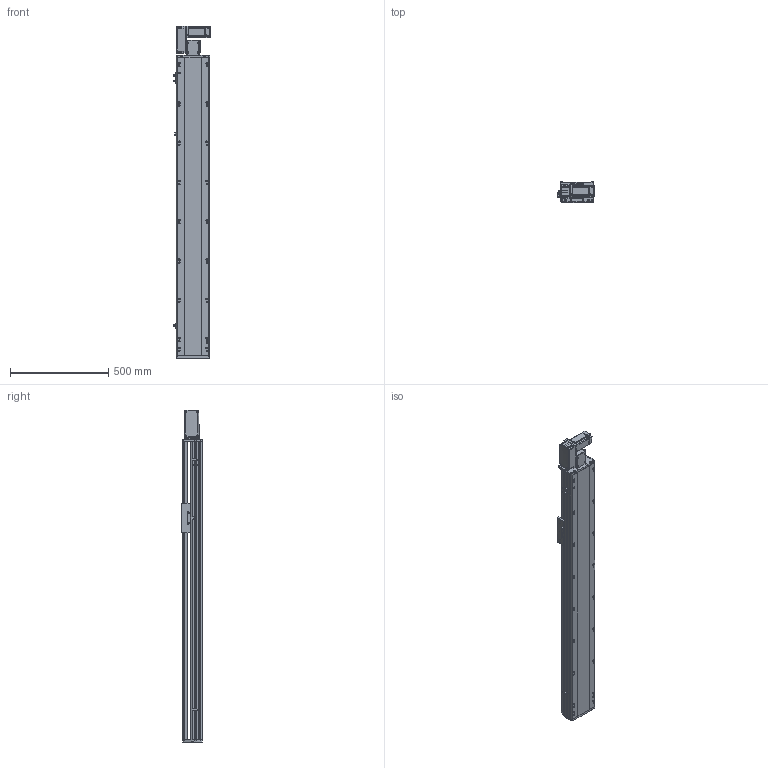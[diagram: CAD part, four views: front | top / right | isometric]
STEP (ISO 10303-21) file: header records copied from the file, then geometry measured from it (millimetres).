
FILE_DESCRIPTION (( 'STEP AP214' ), '1' );
FILE_NAME ('RTB17S-XX-1250-L-M40-C4.STEP', '2025-12-11T05:38:45', ( '' ), ( '' ), 'SwSTEP 2.0', 'SolidWorks 2018', '' );
FILE_SCHEMA (( 'AUTOMOTIVE_DESIGN' ));
Length unit declared in the file: millimetre
Products named in the file (14): 400W伺服电机^RTB17S-XX-XX-L-M40-C4（方程式）; RTB17S-L-001侧面板^RTB17S-XX-XX-L-M40-C4（方程式）; OMRON EE-SX672 传感器^RTB17S-XX-XX-L-M40-C4（方程式）; RTB17S-XX-1250-L-M40-C4; RTB14-L-018P^RTB17S-L-皮带座装配-400W_RTB17S-XX-XX-L-M40-C4（方程式）; RTB14-L-005P--轴承塑胶压盖^RTB17S-L-皮带座装配-400W_RTB17S-XX-XX-L-M40-C4（方程式）; RTB17S-L-皮带座装配-400W^RTB17S-XX-XX-L-M40-C4（方程式）; RTB17-R-011底座^RTB17S-XX-XX-L-M40-C4（方程式）; RTB14-L-008-M20--电机板^RTB17S-L-皮带座装配-400W_RTB17S-XX-XX-L-M40-C4（方程式）; RTB14-L-017P^RTB17S-L-皮带座装配-400W_RTB17S-XX-XX-L-M40-C4（方程式）; RMP17S-L-014-T20--皮带座^RTB17S-L-皮带座装配-400W_RTB17S-XX-XX-L-M40-C4（方程式）; RTB17S-L-007上盖^RTB17S-XX-XX-L-M40-C4（方程式）; RTB17S-L-004丝杆螺母连接座^RTB17S-XX-XX-L-M40-C4（方程式）; RTH13-BL-012感应片外置^RTB17S-XX-XX-L-M40-C4（方程式）
Assembly tree (16 placements, depth 3):
  RTB17S-XX-1250-L-M40-C4
    RTB17-R-011底座^RTB17S-XX-XX-L-M40-C4（方程式）
    RTB17S-L-007上盖^RTB17S-XX-XX-L-M40-C4（方程式）
    OMRON EE-SX672 传感器^RTB17S-XX-XX-L-M40-C4（方程式）  x3
    RTB17S-L-001侧面板^RTB17S-XX-XX-L-M40-C4（方程式）
    400W伺服电机^RTB17S-XX-XX-L-M40-C4（方程式）
    RTB17S-L-004丝杆螺母连接座^RTB17S-XX-XX-L-M40-C4（方程式）
    RTH13-BL-012感应片外置^RTB17S-XX-XX-L-M40-C4（方程式）
    RTB17S-L-皮带座装配-400W^RTB17S-XX-XX-L-M40-C4（方程式）
      RMP17S-L-014-T20--皮带座^RTB17S-L-皮带座装配-400W_RTB17S-XX-XX-L-M40-C4（方程式）
      RTB14-L-005P--轴承塑胶压盖^RTB17S-L-皮带座装配-400W_RTB17S-XX-XX-L-M40-C4（方程式）
      RTB14-L-008-M20--电机板^RTB17S-L-皮带座装配-400W_RTB17S-XX-XX-L-M40-C4（方程式）
      RTB14-L-017P^RTB17S-L-皮带座装配-400W_RTB17S-XX-XX-L-M40-C4（方程式）  x2
      RTB14-L-018P^RTB17S-L-皮带座装配-400W_RTB17S-XX-XX-L-M40-C4（方程式）
Bounding box: 186 x 108 x 1691 mm (x, y, z)
Volume: 14407850.3 mm3; surface area: 1722186.3 mm2
Topology: 15 solids, 15 shells, 2237 faces, 6195 edges, 4041 vertices
Faces by surface type: plane 1072, cylinder 717, bspline 301, cone 139, torus 8
Entity records: 64169 total; most frequent: CARTESIAN_POINT 18000, ORIENTED_EDGE 9234, DIRECTION 8576, EDGE_CURVE 4617, VERTEX_POINT 3029, AXIS2_PLACEMENT_3D 2959, LINE 2658, VECTOR 2658
